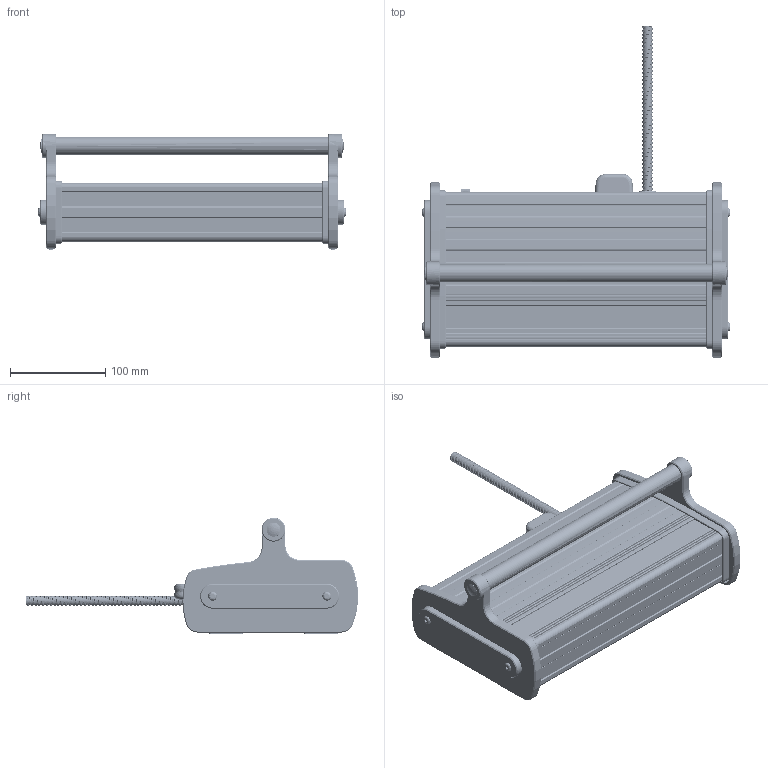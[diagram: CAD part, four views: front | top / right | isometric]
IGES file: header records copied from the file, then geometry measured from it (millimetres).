
Global section: file name: Y:\_LCPD Drawings\13.1 Lightweight Models\5103\LA-5103-3036  XM60 LASER ASSY\LA-5103-3036-A  XM60 LASER ASSY.igs; native system: NX V12.0; preprocessor: SIEMENS PLM Software NX 12.0; date: 20200116.102228; units: millimetre
Bounding box: 324.1 x 348.74 x 122.24 mm (x, y, z)
Surface area: 390346.6 mm2 (no closed solid volume)
Topology: 0 solids, 0 shells, 2838 faces, 31424 edges, 31258 vertices
Faces by surface type: bspline 2838
